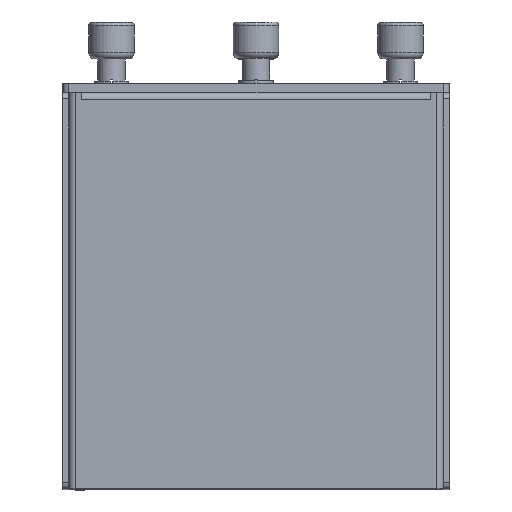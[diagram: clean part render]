
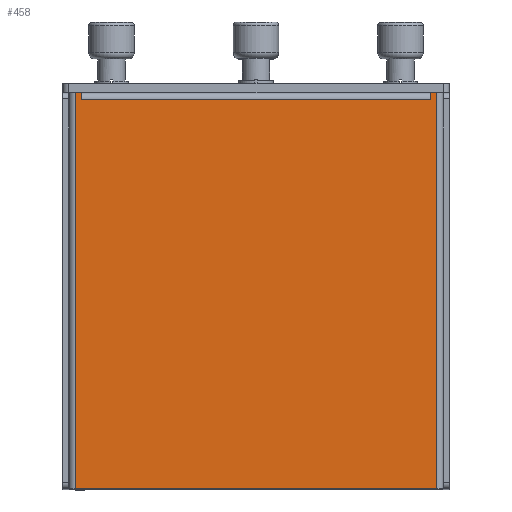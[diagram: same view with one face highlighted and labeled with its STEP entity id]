
A CAD part, top view. The second image highlights one B-rep face of the part: STEP entity #458.
In plain terms, the highlighted planar face has unit normal (0, 0, 1).
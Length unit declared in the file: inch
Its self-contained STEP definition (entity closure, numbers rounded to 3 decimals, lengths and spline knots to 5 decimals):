
#174=CARTESIAN_POINT('',(3.633,0.,0.0));
#175=VERTEX_POINT('',#174);
#183=CARTESIAN_POINT('',(0.061,0.,0.0));
#184=VERTEX_POINT('',#183);
#185=CARTESIAN_POINT('',(0.061,0.0,0.0));
#186=DIRECTION('',(1.0,0.0,0.0));
#187=VECTOR('',#186,3.572);
#188=LINE('',#185,#187);
#189=EDGE_CURVE('',#184,#175,#188,.T.);
#352=CARTESIAN_POINT('',(3.633,3.91,0.0));
#353=VERTEX_POINT('',#352);
#361=CARTESIAN_POINT('',(3.633,0.0,0.0));
#362=DIRECTION('',(0.0,1.0,0.0));
#363=VECTOR('',#362,3.91);
#364=LINE('',#361,#363);
#365=EDGE_CURVE('',#175,#353,#364,.T.);
#371=CARTESIAN_POINT('',(1.847,1.955,0.0));
#372=DIRECTION('',(0.0,0.0,1.0));
#373=DIRECTION('',(1.0,0.0,0.0));
#374=AXIS2_PLACEMENT_3D('',#371,#372,#373);
#375=PLANE('',#374);
#376=CARTESIAN_POINT('',(0.121,3.849,0.0));
#377=VERTEX_POINT('',#376);
#378=CARTESIAN_POINT('',(0.121,3.8488,0.));
#379=VERTEX_POINT('',#378);
#380=CARTESIAN_POINT('',(0.121,3.849,0.0));
#381=DIRECTION('',(0.0,-1.0,0.0));
#382=VECTOR('',#381,0.0002);
#383=LINE('',#380,#382);
#384=EDGE_CURVE('',#377,#379,#383,.T.);
#385=ORIENTED_EDGE('',*,*,#384,.T.);
#386=CARTESIAN_POINT('',(0.1208,3.8488,0.));
#387=VERTEX_POINT('',#386);
#388=CARTESIAN_POINT('',(0.121,3.8488,0.0));
#389=DIRECTION('',(-1.0,0.0,0.0));
#390=VECTOR('',#389,0.0002);
#391=LINE('',#388,#390);
#392=EDGE_CURVE('',#379,#387,#391,.T.);
#393=ORIENTED_EDGE('',*,*,#392,.T.);
#394=CARTESIAN_POINT('',(0.1208,3.91,0.));
#395=VERTEX_POINT('',#394);
#396=CARTESIAN_POINT('',(0.1208,3.8488,0.0));
#397=DIRECTION('',(0.0,1.0,0.0));
#398=VECTOR('',#397,0.0612);
#399=LINE('',#396,#398);
#400=EDGE_CURVE('',#387,#395,#399,.T.);
#401=ORIENTED_EDGE('',*,*,#400,.T.);
#402=CARTESIAN_POINT('',(0.061,3.91,0.0));
#403=VERTEX_POINT('',#402);
#404=CARTESIAN_POINT('',(0.1208,3.91,0.0));
#405=DIRECTION('',(-1.0,0.0,0.0));
#406=VECTOR('',#405,0.0598);
#407=LINE('',#404,#406);
#408=EDGE_CURVE('',#395,#403,#407,.T.);
#409=ORIENTED_EDGE('',*,*,#408,.T.);
#410=CARTESIAN_POINT('',(0.061,3.91,0.0));
#411=DIRECTION('',(0.0,-1.0,0.0));
#412=VECTOR('',#411,3.91);
#413=LINE('',#410,#412);
#414=EDGE_CURVE('',#403,#184,#413,.T.);
#415=ORIENTED_EDGE('',*,*,#414,.T.);
#416=ORIENTED_EDGE('',*,*,#189,.T.);
#417=ORIENTED_EDGE('',*,*,#365,.T.);
#418=CARTESIAN_POINT('',(3.5732,3.91,0.));
#419=VERTEX_POINT('',#418);
#420=CARTESIAN_POINT('',(3.633,3.91,0.0));
#421=DIRECTION('',(-1.0,0.0,0.0));
#422=VECTOR('',#421,0.0598);
#423=LINE('',#420,#422);
#424=EDGE_CURVE('',#353,#419,#423,.T.);
#425=ORIENTED_EDGE('',*,*,#424,.T.);
#426=CARTESIAN_POINT('',(3.5732,3.8488,0.));
#427=VERTEX_POINT('',#426);
#428=CARTESIAN_POINT('',(3.5732,3.91,0.0));
#429=DIRECTION('',(0.0,-1.0,0.0));
#430=VECTOR('',#429,0.0612);
#431=LINE('',#428,#430);
#432=EDGE_CURVE('',#419,#427,#431,.T.);
#433=ORIENTED_EDGE('',*,*,#432,.T.);
#434=CARTESIAN_POINT('',(3.573,3.8488,0.));
#435=VERTEX_POINT('',#434);
#436=CARTESIAN_POINT('',(3.5732,3.8488,0.0));
#437=DIRECTION('',(-1.0,0.0,0.0));
#438=VECTOR('',#437,0.0002);
#439=LINE('',#436,#438);
#440=EDGE_CURVE('',#427,#435,#439,.T.);
#441=ORIENTED_EDGE('',*,*,#440,.T.);
#442=CARTESIAN_POINT('',(3.573,3.849,0.0));
#443=VERTEX_POINT('',#442);
#444=CARTESIAN_POINT('',(3.573,3.8488,0.0));
#445=DIRECTION('',(0.0,1.0,0.0));
#446=VECTOR('',#445,0.0002);
#447=LINE('',#444,#446);
#448=EDGE_CURVE('',#435,#443,#447,.T.);
#449=ORIENTED_EDGE('',*,*,#448,.T.);
#450=CARTESIAN_POINT('',(3.573,3.849,0.0));
#451=DIRECTION('',(-1.0,0.0,0.0));
#452=VECTOR('',#451,3.452);
#453=LINE('',#450,#452);
#454=EDGE_CURVE('',#443,#377,#453,.T.);
#455=ORIENTED_EDGE('',*,*,#454,.T.);
#456=EDGE_LOOP('',(#385,#393,#401,#409,#415,#416,#417,#425,#433,#441,#449,#455));
#457=FACE_OUTER_BOUND('',#456,.T.);
#458=ADVANCED_FACE('',(#457),#375,.T.);
